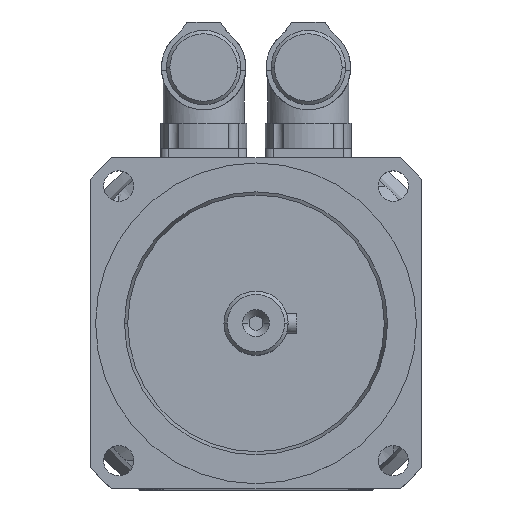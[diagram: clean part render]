
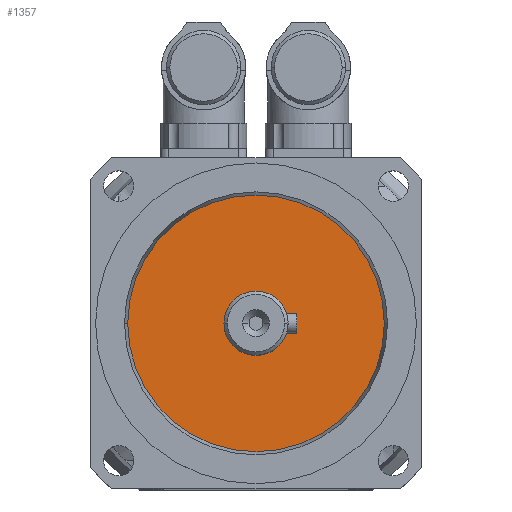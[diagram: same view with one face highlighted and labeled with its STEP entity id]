
A CAD part, top view. The second image highlights one B-rep face of the part: STEP entity #1357.
In plain terms, the highlighted free-form (B-spline) face has degree [1, 1] with [2, 2] control points.
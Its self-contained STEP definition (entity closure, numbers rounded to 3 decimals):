
#1027=CARTESIAN_POINT('',(-9.5,0.,196.5));
#1028=VERTEX_POINT('',#1027);
#1037=CARTESIAN_POINT('',(9.5,0.,196.5));
#1038=VERTEX_POINT('',#1037);
#1039=CARTESIAN_POINT('',(0.,0.,196.5));
#1040=DIRECTION('',(0.0,0.0,-1.0));
#1041=DIRECTION('',(-1.0,0.0,0.0));
#1042=AXIS2_PLACEMENT_3D('',#1039,#1040,#1041);
#1043=CIRCLE('',#1042,9.5);
#1044=EDGE_CURVE('',#1038,#1028,#1043,.T.);
#1297=CARTESIAN_POINT('',(38.0,0.,196.5));
#1298=VERTEX_POINT('',#1297);
#1314=CARTESIAN_POINT('',(-38.0,0.,196.5));
#1315=VERTEX_POINT('',#1314);
#1322=CARTESIAN_POINT('',(0.,0.,196.5));
#1323=DIRECTION('',(0.0,0.0,1.0));
#1324=DIRECTION('',(1.0,0.0,0.0));
#1325=AXIS2_PLACEMENT_3D('',#1322,#1323,#1324);
#1326=CIRCLE('',#1325,38.0);
#1327=EDGE_CURVE('',#1298,#1315,#1326,.T.);
#1332=CARTESIAN_POINT('',(-38.0,38.0,196.5));
#1333=CARTESIAN_POINT('',(38.0,38.0,196.5));
#1334=CARTESIAN_POINT('',(-38.0,-38.0,196.5));
#1335=CARTESIAN_POINT('',(38.0,-38.0,196.5));
#1336=B_SPLINE_SURFACE_WITH_KNOTS('',1,1,((#1332,#1334),(#1333,#1335)),.UNSPECIFIED.,.F.,.F.,.U.,(2,2),(2,2),(0.0,76.0),(0.0,76.0),.UNSPECIFIED.);
#1337=ORIENTED_EDGE('',*,*,#1327,.T.);
#1338=CARTESIAN_POINT('',(0.,0.,196.5));
#1339=DIRECTION('',(0.0,0.0,1.0));
#1340=DIRECTION('',(1.0,0.0,0.0));
#1341=AXIS2_PLACEMENT_3D('',#1338,#1339,#1340);
#1342=CIRCLE('',#1341,38.0);
#1343=EDGE_CURVE('',#1315,#1298,#1342,.T.);
#1344=ORIENTED_EDGE('',*,*,#1343,.T.);
#1345=EDGE_LOOP('',(#1337,#1344));
#1346=FACE_OUTER_BOUND('',#1345,.T.);
#1347=ORIENTED_EDGE('',*,*,#1044,.T.);
#1348=CARTESIAN_POINT('',(0.,0.,196.5));
#1349=DIRECTION('',(0.0,0.0,-1.0));
#1350=DIRECTION('',(-1.0,0.0,0.0));
#1351=AXIS2_PLACEMENT_3D('',#1348,#1349,#1350);
#1352=CIRCLE('',#1351,9.5);
#1353=EDGE_CURVE('',#1028,#1038,#1352,.T.);
#1354=ORIENTED_EDGE('',*,*,#1353,.T.);
#1355=EDGE_LOOP('',(#1347,#1354));
#1356=FACE_BOUND('',#1355,.T.);
#1357=ADVANCED_FACE('',(#1346,#1356),#1336,.F.);
